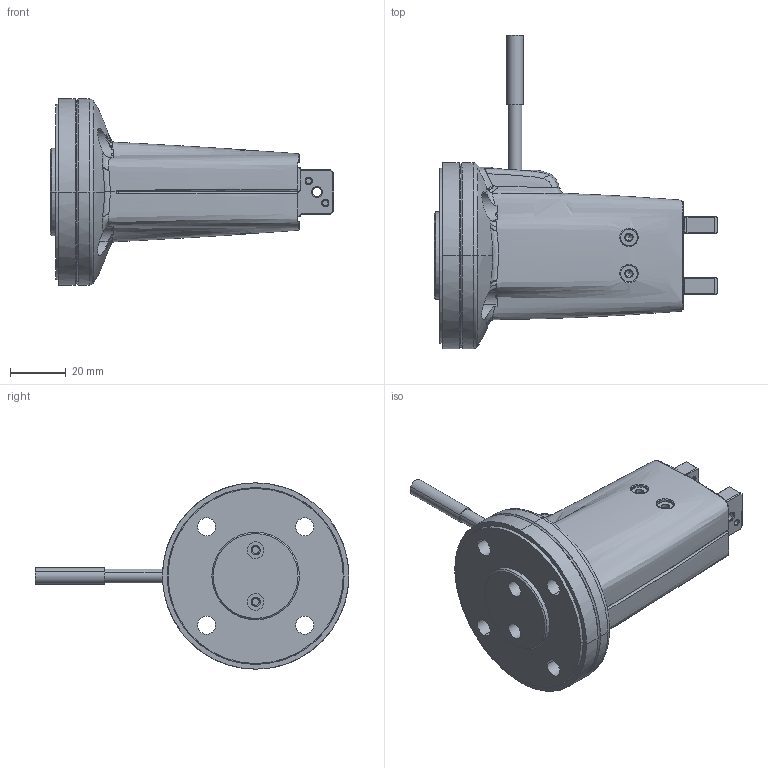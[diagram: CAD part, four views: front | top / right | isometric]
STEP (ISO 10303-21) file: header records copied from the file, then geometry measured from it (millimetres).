
FILE_DESCRIPTION(('CATIA V5 STEP Exchange'),'2;1');
FILE_NAME('F:\工作文件GP\EFG 对外资料\EFG对外资料\EFG-F\EFG-F.stp','2018-09-27T03:13:06+00:00',('none'),('none'),'CATIA Version 5 Release 20 GA (IN-10)','CATIA V5 STEP AP203','none');
FILE_SCHEMA(('CONFIG_CONTROL_DESIGN'));
Products named in the file (7): Product1; EFG-8; Z-100-0002-00; Z-100-0003-01; Z-100-0007-00; Z-100-0001-01; kongzhixian1
Assembly tree (19 placements, depth 4):
  Product1
    #58
    EFG-8
      Z-100-0002-00
        #41301
        #43203  x2
      Z-100-0003-01
        #45601
      Z-100-0007-00
        #47570
      Z-100-0001-01
        #50042
        kongzhixian1
      #52194  x4
      #52909
    #53513
Bounding box: 101.9 x 112.8 x 67 mm (x, y, z)
Volume: 114615.9 mm3; surface area: 65506.5 mm2
Topology: 13 solids, 13 shells, 1314 faces, 3448 edges, 2174 vertices
Faces by surface type: bspline 664, plane 396, cylinder 162, cone 84, torus 8
Entity records: 52835 total; most frequent: CARTESIAN_POINT 31326, ORIENTED_EDGE 6128, EDGE_CURVE 3064, DIRECTION 2116, VERTEX_POINT 1944, EDGE_LOOP 1258, ADVANCED_FACE 1166, FACE_OUTER_BOUND 1166
